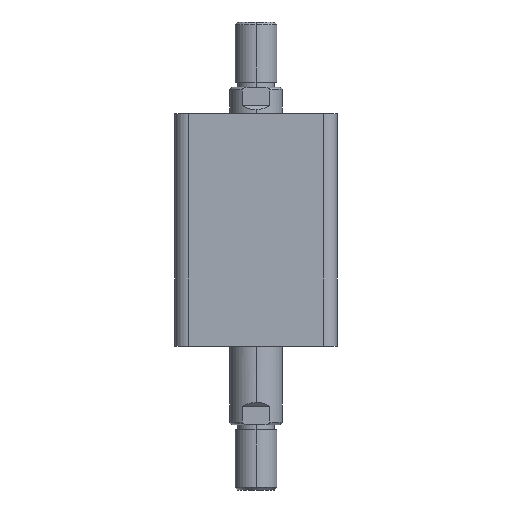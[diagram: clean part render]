
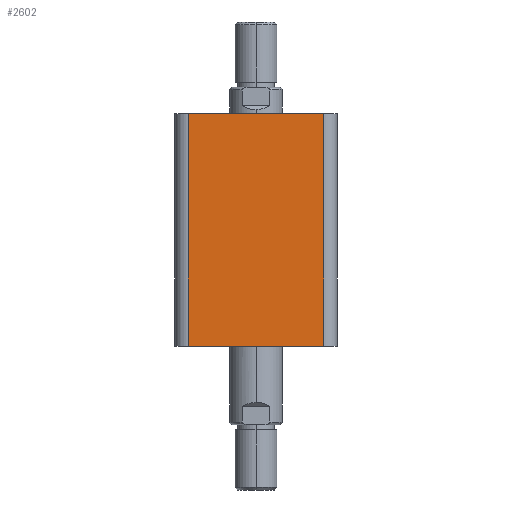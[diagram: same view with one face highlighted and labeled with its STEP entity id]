
A CAD part, left-side view. The second image highlights one B-rep face of the part: STEP entity #2602.
In plain terms, the highlighted planar face has unit normal (-1, 0, 0).
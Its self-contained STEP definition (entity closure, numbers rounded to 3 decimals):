
#33 = DIRECTION ( 'NONE',  ( 0., 0., 1. ) ) ;
#34 = CARTESIAN_POINT ( 'NONE',  ( -31., -26., 89. ) ) ;
#36 = CARTESIAN_POINT ( 'NONE',  ( -31., 26., 89. ) ) ;
#37 = DIRECTION ( 'NONE',  ( 0., -1., 0. ) ) ;
#38 = DIRECTION ( 'NONE',  ( 0., 0., -1. ) ) ;
#39 = CARTESIAN_POINT ( 'NONE',  ( -31., 31., 89. ) ) ;
#135 = CARTESIAN_POINT ( 'NONE',  ( -31., 31., 0. ) ) ;
#137 = DIRECTION ( 'NONE',  ( 0., -1., 0. ) ) ;
#406 = AXIS2_PLACEMENT_3D ( 'NONE', #2172, #2182, #2183 ) ;
#1038 = LINE ( 'NONE', #135, #1041 ) ;
#1041 = VECTOR ( 'NONE', #137, 1000. ) ;
#1246 = FACE_OUTER_BOUND ( 'NONE', #1312, .T. ) ;
#1312 = EDGE_LOOP ( 'NONE', ( #1812, #1813, #1814, #1815 ) ) ;
#1313 = EDGE_CURVE ( 'NONE', #3409, #3416, #2659, .T. ) ;
#1314 = EDGE_CURVE ( 'NONE', #3412, #3416, #2657, .T. ) ;
#1315 = EDGE_CURVE ( 'NONE', #3412, #3405, #2658, .T. ) ;
#1812 = ORIENTED_EDGE ( 'NONE', *, *, #2030, .T. ) ;
#1813 = ORIENTED_EDGE ( 'NONE', *, *, #1313, .T. ) ;
#1814 = ORIENTED_EDGE ( 'NONE', *, *, #1314, .F. ) ;
#1815 = ORIENTED_EDGE ( 'NONE', *, *, #1315, .T. ) ;
#2030 = EDGE_CURVE ( 'NONE', #3405, #3409, #1038, .T. ) ;
#2172 = CARTESIAN_POINT ( 'NONE',  ( -31., 31., 89. ) ) ;
#2180 = PLANE ( 'NONE',  #406 ) ;
#2182 = DIRECTION ( 'NONE',  ( 1., 0., 0. ) ) ;
#2183 = DIRECTION ( 'NONE',  ( 0., 1., 0. ) ) ;
#2243 = CARTESIAN_POINT ( 'NONE',  ( -31., 26., 0. ) ) ;
#2247 = CARTESIAN_POINT ( 'NONE',  ( -31., -26., 0. ) ) ;
#2250 = CARTESIAN_POINT ( 'NONE',  ( -31., 26., 89. ) ) ;
#2254 = CARTESIAN_POINT ( 'NONE',  ( -31., -26., 89. ) ) ;
#2602 = ADVANCED_FACE ( 'NONE', ( #1246 ), #2180, .F. ) ;
#2657 = LINE ( 'NONE', #39, #2662 ) ;
#2658 = LINE ( 'NONE', #36, #2664 ) ;
#2659 = LINE ( 'NONE', #34, #2660 ) ;
#2660 = VECTOR ( 'NONE', #33, 1000. ) ;
#2662 = VECTOR ( 'NONE', #37, 1000. ) ;
#2664 = VECTOR ( 'NONE', #38, 1000. ) ;
#3405 = VERTEX_POINT ( 'NONE', #2243 ) ;
#3409 = VERTEX_POINT ( 'NONE', #2247 ) ;
#3412 = VERTEX_POINT ( 'NONE', #2250 ) ;
#3416 = VERTEX_POINT ( 'NONE', #2254 ) ;
